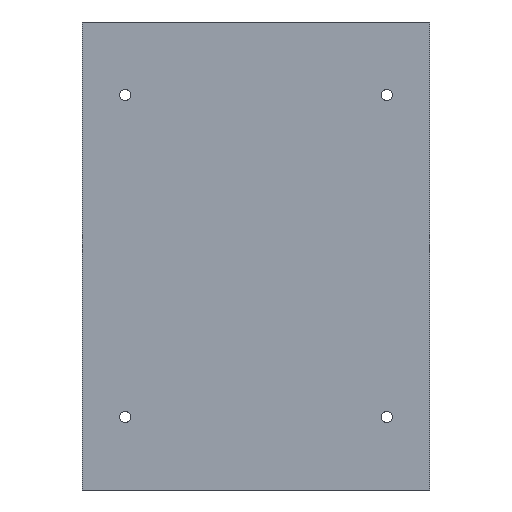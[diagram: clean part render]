
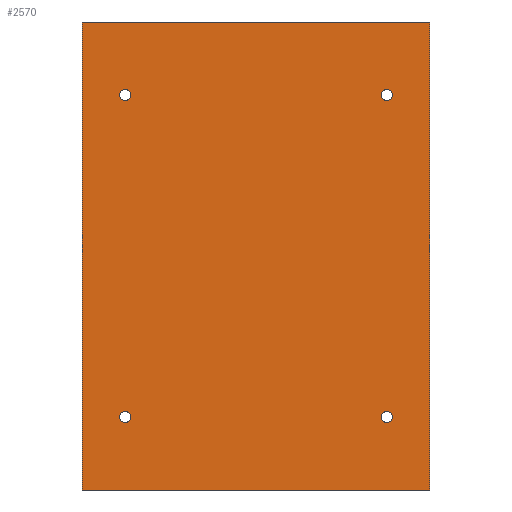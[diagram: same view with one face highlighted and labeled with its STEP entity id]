
A CAD part, front view. The second image highlights one B-rep face of the part: STEP entity #2570.
In plain terms, the highlighted planar face has unit normal (0, -1, 0).
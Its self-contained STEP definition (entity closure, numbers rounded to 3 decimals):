
#32 = PLANE('',#33);
#33 = AXIS2_PLACEMENT_3D('',#34,#35,#36);
#34 = CARTESIAN_POINT('',(138.,0.,0.));
#35 = DIRECTION('',(-1.,-0.,-0.));
#36 = DIRECTION('',(0.,0.,-1.));
#57 = VERTEX_POINT('',#58);
#58 = CARTESIAN_POINT('',(138.,0.,186.));
#72 = PLANE('',#73);
#73 = AXIS2_PLACEMENT_3D('',#74,#75,#76);
#74 = CARTESIAN_POINT('',(138.,0.,186.));
#75 = DIRECTION('',(-0.,-0.,1.));
#76 = DIRECTION('',(1.,0.,0.));
#84 = EDGE_CURVE('',#85,#57,#87,.T.);
#85 = VERTEX_POINT('',#86);
#86 = CARTESIAN_POINT('',(138.,0.,0.));
#87 = SURFACE_CURVE('',#88,(#92,#99),.PCURVE_S1.);
#88 = LINE('',#89,#90);
#89 = CARTESIAN_POINT('',(138.,0.,0.));
#90 = VECTOR('',#91,1.);
#91 = DIRECTION('',(0.,0.,1.));
#92 = PCURVE('',#32,#93);
#93 = DEFINITIONAL_REPRESENTATION('',(#94),#98);
#94 = LINE('',#95,#96);
#95 = CARTESIAN_POINT('',(-0.,-0.));
#96 = VECTOR('',#97,1.);
#97 = DIRECTION('',(-1.,-0.));
#98 = ( GEOMETRIC_REPRESENTATION_CONTEXT(2) 
PARAMETRIC_REPRESENTATION_CONTEXT() REPRESENTATION_CONTEXT('2D SPACE',''
  ) );
#99 = PCURVE('',#100,#105);
#100 = PLANE('',#101);
#101 = AXIS2_PLACEMENT_3D('',#102,#103,#104);
#102 = CARTESIAN_POINT('',(138.,0.,0.));
#103 = DIRECTION('',(-0.,1.,0.));
#104 = DIRECTION('',(0.,0.,-1.));
#105 = DEFINITIONAL_REPRESENTATION('',(#106),#110);
#106 = LINE('',#107,#108);
#107 = CARTESIAN_POINT('',(-0.,-0.));
#108 = VECTOR('',#109,1.);
#109 = DIRECTION('',(-1.,0.));
#110 = ( GEOMETRIC_REPRESENTATION_CONTEXT(2) 
PARAMETRIC_REPRESENTATION_CONTEXT() REPRESENTATION_CONTEXT('2D SPACE',''
  ) );
#126 = PLANE('',#127);
#127 = AXIS2_PLACEMENT_3D('',#128,#129,#130);
#128 = CARTESIAN_POINT('',(138.,0.,0.));
#129 = DIRECTION('',(-0.,-0.,1.));
#130 = DIRECTION('',(1.,0.,0.));
#181 = PLANE('',#182);
#182 = AXIS2_PLACEMENT_3D('',#183,#184,#185);
#183 = CARTESIAN_POINT('',(0.,0.,0.));
#184 = DIRECTION('',(-1.,-0.,-0.));
#185 = DIRECTION('',(0.,0.,-1.));
#1097 = EDGE_CURVE('',#57,#1098,#1100,.T.);
#1098 = VERTEX_POINT('',#1099);
#1099 = CARTESIAN_POINT('',(0.,0.,186.));
#1100 = SURFACE_CURVE('',#1101,(#1105,#1112),.PCURVE_S1.);
#1101 = LINE('',#1102,#1103);
#1102 = CARTESIAN_POINT('',(138.,0.,186.));
#1103 = VECTOR('',#1104,1.);
#1104 = DIRECTION('',(-1.,-0.,0.));
#1105 = PCURVE('',#72,#1106);
#1106 = DEFINITIONAL_REPRESENTATION('',(#1107),#1111);
#1107 = LINE('',#1108,#1109);
#1108 = CARTESIAN_POINT('',(0.,-0.));
#1109 = VECTOR('',#1110,1.);
#1110 = DIRECTION('',(-1.,0.));
#1111 = ( GEOMETRIC_REPRESENTATION_CONTEXT(2) 
PARAMETRIC_REPRESENTATION_CONTEXT() REPRESENTATION_CONTEXT('2D SPACE',''
  ) );
#1112 = PCURVE('',#100,#1113);
#1113 = DEFINITIONAL_REPRESENTATION('',(#1114),#1118);
#1114 = LINE('',#1115,#1116);
#1115 = CARTESIAN_POINT('',(-186.,-0.));
#1116 = VECTOR('',#1117,1.);
#1117 = DIRECTION('',(-0.,1.));
#1118 = ( GEOMETRIC_REPRESENTATION_CONTEXT(2) 
PARAMETRIC_REPRESENTATION_CONTEXT() REPRESENTATION_CONTEXT('2D SPACE',''
  ) );
#2570 = ADVANCED_FACE('',(#2571,#2619,#2650,#2681,#2712),#100,.F.);
#2571 = FACE_BOUND('',#2572,.T.);
#2572 = EDGE_LOOP('',(#2573,#2596,#2597,#2598));
#2573 = ORIENTED_EDGE('',*,*,#2574,.F.);
#2574 = EDGE_CURVE('',#85,#2575,#2577,.T.);
#2575 = VERTEX_POINT('',#2576);
#2576 = CARTESIAN_POINT('',(0.,0.,0.));
#2577 = SURFACE_CURVE('',#2578,(#2582,#2589),.PCURVE_S1.);
#2578 = LINE('',#2579,#2580);
#2579 = CARTESIAN_POINT('',(138.,0.,0.));
#2580 = VECTOR('',#2581,1.);
#2581 = DIRECTION('',(-1.,-0.,0.));
#2582 = PCURVE('',#100,#2583);
#2583 = DEFINITIONAL_REPRESENTATION('',(#2584),#2588);
#2584 = LINE('',#2585,#2586);
#2585 = CARTESIAN_POINT('',(-0.,-0.));
#2586 = VECTOR('',#2587,1.);
#2587 = DIRECTION('',(-0.,1.));
#2588 = ( GEOMETRIC_REPRESENTATION_CONTEXT(2) 
PARAMETRIC_REPRESENTATION_CONTEXT() REPRESENTATION_CONTEXT('2D SPACE',''
  ) );
#2589 = PCURVE('',#126,#2590);
#2590 = DEFINITIONAL_REPRESENTATION('',(#2591),#2595);
#2591 = LINE('',#2592,#2593);
#2592 = CARTESIAN_POINT('',(0.,-0.));
#2593 = VECTOR('',#2594,1.);
#2594 = DIRECTION('',(-1.,0.));
#2595 = ( GEOMETRIC_REPRESENTATION_CONTEXT(2) 
PARAMETRIC_REPRESENTATION_CONTEXT() REPRESENTATION_CONTEXT('2D SPACE',''
  ) );
#2596 = ORIENTED_EDGE('',*,*,#84,.T.);
#2597 = ORIENTED_EDGE('',*,*,#1097,.T.);
#2598 = ORIENTED_EDGE('',*,*,#2599,.F.);
#2599 = EDGE_CURVE('',#2575,#1098,#2600,.T.);
#2600 = SURFACE_CURVE('',#2601,(#2605,#2612),.PCURVE_S1.);
#2601 = LINE('',#2602,#2603);
#2602 = CARTESIAN_POINT('',(0.,0.,0.));
#2603 = VECTOR('',#2604,1.);
#2604 = DIRECTION('',(0.,0.,1.));
#2605 = PCURVE('',#100,#2606);
#2606 = DEFINITIONAL_REPRESENTATION('',(#2607),#2611);
#2607 = LINE('',#2608,#2609);
#2608 = CARTESIAN_POINT('',(-0.,138.));
#2609 = VECTOR('',#2610,1.);
#2610 = DIRECTION('',(-1.,0.));
#2611 = ( GEOMETRIC_REPRESENTATION_CONTEXT(2) 
PARAMETRIC_REPRESENTATION_CONTEXT() REPRESENTATION_CONTEXT('2D SPACE',''
  ) );
#2612 = PCURVE('',#181,#2613);
#2613 = DEFINITIONAL_REPRESENTATION('',(#2614),#2618);
#2614 = LINE('',#2615,#2616);
#2615 = CARTESIAN_POINT('',(-0.,-0.));
#2616 = VECTOR('',#2617,1.);
#2617 = DIRECTION('',(-1.,-0.));
#2618 = ( GEOMETRIC_REPRESENTATION_CONTEXT(2) 
PARAMETRIC_REPRESENTATION_CONTEXT() REPRESENTATION_CONTEXT('2D SPACE',''
  ) );
#2619 = FACE_BOUND('',#2620,.T.);
#2620 = EDGE_LOOP('',(#2621));
#2621 = ORIENTED_EDGE('',*,*,#2622,.T.);
#2622 = EDGE_CURVE('',#2623,#2623,#2625,.T.);
#2623 = VERTEX_POINT('',#2624);
#2624 = CARTESIAN_POINT('',(118.75,0.,29.));
#2625 = SURFACE_CURVE('',#2626,(#2631,#2638),.PCURVE_S1.);
#2626 = CIRCLE('',#2627,2.25);
#2627 = AXIS2_PLACEMENT_3D('',#2628,#2629,#2630);
#2628 = CARTESIAN_POINT('',(121.,0.,29.));
#2629 = DIRECTION('',(-0.,1.,0.));
#2630 = DIRECTION('',(-1.,-0.,-0.));
#2631 = PCURVE('',#100,#2632);
#2632 = DEFINITIONAL_REPRESENTATION('',(#2633),#2637);
#2633 = CIRCLE('',#2634,2.25);
#2634 = AXIS2_PLACEMENT_2D('',#2635,#2636);
#2635 = CARTESIAN_POINT('',(-29.,17.));
#2636 = DIRECTION('',(-0.,1.));
#2637 = ( GEOMETRIC_REPRESENTATION_CONTEXT(2) 
PARAMETRIC_REPRESENTATION_CONTEXT() REPRESENTATION_CONTEXT('2D SPACE',''
  ) );
#2638 = PCURVE('',#2639,#2644);
#2639 = CYLINDRICAL_SURFACE('',#2640,2.25);
#2640 = AXIS2_PLACEMENT_3D('',#2641,#2642,#2643);
#2641 = CARTESIAN_POINT('',(121.,-1.,29.));
#2642 = DIRECTION('',(-0.,-1.,-0.));
#2643 = DIRECTION('',(-1.,-0.,-0.));
#2644 = DEFINITIONAL_REPRESENTATION('',(#2645),#2649);
#2645 = LINE('',#2646,#2647);
#2646 = CARTESIAN_POINT('',(-0.,-1.));
#2647 = VECTOR('',#2648,1.);
#2648 = DIRECTION('',(-1.,0.));
#2649 = ( GEOMETRIC_REPRESENTATION_CONTEXT(2) 
PARAMETRIC_REPRESENTATION_CONTEXT() REPRESENTATION_CONTEXT('2D SPACE',''
  ) );
#2650 = FACE_BOUND('',#2651,.T.);
#2651 = EDGE_LOOP('',(#2652));
#2652 = ORIENTED_EDGE('',*,*,#2653,.T.);
#2653 = EDGE_CURVE('',#2654,#2654,#2656,.T.);
#2654 = VERTEX_POINT('',#2655);
#2655 = CARTESIAN_POINT('',(118.75,0.,157.));
#2656 = SURFACE_CURVE('',#2657,(#2662,#2669),.PCURVE_S1.);
#2657 = CIRCLE('',#2658,2.25);
#2658 = AXIS2_PLACEMENT_3D('',#2659,#2660,#2661);
#2659 = CARTESIAN_POINT('',(121.,0.,157.));
#2660 = DIRECTION('',(-0.,1.,0.));
#2661 = DIRECTION('',(-1.,-0.,-0.));
#2662 = PCURVE('',#100,#2663);
#2663 = DEFINITIONAL_REPRESENTATION('',(#2664),#2668);
#2664 = CIRCLE('',#2665,2.25);
#2665 = AXIS2_PLACEMENT_2D('',#2666,#2667);
#2666 = CARTESIAN_POINT('',(-157.,17.));
#2667 = DIRECTION('',(-0.,1.));
#2668 = ( GEOMETRIC_REPRESENTATION_CONTEXT(2) 
PARAMETRIC_REPRESENTATION_CONTEXT() REPRESENTATION_CONTEXT('2D SPACE',''
  ) );
#2669 = PCURVE('',#2670,#2675);
#2670 = CYLINDRICAL_SURFACE('',#2671,2.25);
#2671 = AXIS2_PLACEMENT_3D('',#2672,#2673,#2674);
#2672 = CARTESIAN_POINT('',(121.,-1.,157.));
#2673 = DIRECTION('',(-0.,-1.,-0.));
#2674 = DIRECTION('',(-1.,-0.,-0.));
#2675 = DEFINITIONAL_REPRESENTATION('',(#2676),#2680);
#2676 = LINE('',#2677,#2678);
#2677 = CARTESIAN_POINT('',(-0.,-1.));
#2678 = VECTOR('',#2679,1.);
#2679 = DIRECTION('',(-1.,0.));
#2680 = ( GEOMETRIC_REPRESENTATION_CONTEXT(2) 
PARAMETRIC_REPRESENTATION_CONTEXT() REPRESENTATION_CONTEXT('2D SPACE',''
  ) );
#2681 = FACE_BOUND('',#2682,.T.);
#2682 = EDGE_LOOP('',(#2683));
#2683 = ORIENTED_EDGE('',*,*,#2684,.T.);
#2684 = EDGE_CURVE('',#2685,#2685,#2687,.T.);
#2685 = VERTEX_POINT('',#2686);
#2686 = CARTESIAN_POINT('',(14.75,0.,29.));
#2687 = SURFACE_CURVE('',#2688,(#2693,#2700),.PCURVE_S1.);
#2688 = CIRCLE('',#2689,2.25);
#2689 = AXIS2_PLACEMENT_3D('',#2690,#2691,#2692);
#2690 = CARTESIAN_POINT('',(17.,0.,29.));
#2691 = DIRECTION('',(-0.,1.,0.));
#2692 = DIRECTION('',(-1.,-0.,-0.));
#2693 = PCURVE('',#100,#2694);
#2694 = DEFINITIONAL_REPRESENTATION('',(#2695),#2699);
#2695 = CIRCLE('',#2696,2.25);
#2696 = AXIS2_PLACEMENT_2D('',#2697,#2698);
#2697 = CARTESIAN_POINT('',(-29.,121.));
#2698 = DIRECTION('',(-0.,1.));
#2699 = ( GEOMETRIC_REPRESENTATION_CONTEXT(2) 
PARAMETRIC_REPRESENTATION_CONTEXT() REPRESENTATION_CONTEXT('2D SPACE',''
  ) );
#2700 = PCURVE('',#2701,#2706);
#2701 = CYLINDRICAL_SURFACE('',#2702,2.25);
#2702 = AXIS2_PLACEMENT_3D('',#2703,#2704,#2705);
#2703 = CARTESIAN_POINT('',(17.,-1.,29.));
#2704 = DIRECTION('',(-0.,-1.,-0.));
#2705 = DIRECTION('',(-1.,-0.,-0.));
#2706 = DEFINITIONAL_REPRESENTATION('',(#2707),#2711);
#2707 = LINE('',#2708,#2709);
#2708 = CARTESIAN_POINT('',(-0.,-1.));
#2709 = VECTOR('',#2710,1.);
#2710 = DIRECTION('',(-1.,0.));
#2711 = ( GEOMETRIC_REPRESENTATION_CONTEXT(2) 
PARAMETRIC_REPRESENTATION_CONTEXT() REPRESENTATION_CONTEXT('2D SPACE',''
  ) );
#2712 = FACE_BOUND('',#2713,.T.);
#2713 = EDGE_LOOP('',(#2714));
#2714 = ORIENTED_EDGE('',*,*,#2715,.T.);
#2715 = EDGE_CURVE('',#2716,#2716,#2718,.T.);
#2716 = VERTEX_POINT('',#2717);
#2717 = CARTESIAN_POINT('',(14.75,0.,157.));
#2718 = SURFACE_CURVE('',#2719,(#2724,#2731),.PCURVE_S1.);
#2719 = CIRCLE('',#2720,2.25);
#2720 = AXIS2_PLACEMENT_3D('',#2721,#2722,#2723);
#2721 = CARTESIAN_POINT('',(17.,0.,157.));
#2722 = DIRECTION('',(-0.,1.,0.));
#2723 = DIRECTION('',(-1.,-0.,-0.));
#2724 = PCURVE('',#100,#2725);
#2725 = DEFINITIONAL_REPRESENTATION('',(#2726),#2730);
#2726 = CIRCLE('',#2727,2.25);
#2727 = AXIS2_PLACEMENT_2D('',#2728,#2729);
#2728 = CARTESIAN_POINT('',(-157.,121.));
#2729 = DIRECTION('',(-0.,1.));
#2730 = ( GEOMETRIC_REPRESENTATION_CONTEXT(2) 
PARAMETRIC_REPRESENTATION_CONTEXT() REPRESENTATION_CONTEXT('2D SPACE',''
  ) );
#2731 = PCURVE('',#2732,#2737);
#2732 = CYLINDRICAL_SURFACE('',#2733,2.25);
#2733 = AXIS2_PLACEMENT_3D('',#2734,#2735,#2736);
#2734 = CARTESIAN_POINT('',(17.,-1.,157.));
#2735 = DIRECTION('',(-0.,-1.,-0.));
#2736 = DIRECTION('',(-1.,-0.,-0.));
#2737 = DEFINITIONAL_REPRESENTATION('',(#2738),#2742);
#2738 = LINE('',#2739,#2740);
#2739 = CARTESIAN_POINT('',(-0.,-1.));
#2740 = VECTOR('',#2741,1.);
#2741 = DIRECTION('',(-1.,0.));
#2742 = ( GEOMETRIC_REPRESENTATION_CONTEXT(2) 
PARAMETRIC_REPRESENTATION_CONTEXT() REPRESENTATION_CONTEXT('2D SPACE',''
  ) );
